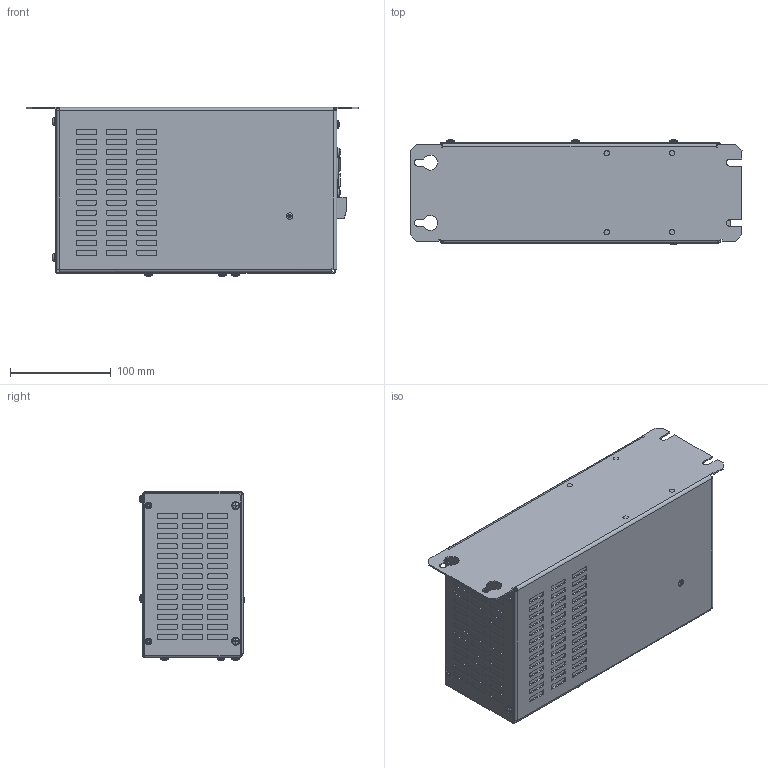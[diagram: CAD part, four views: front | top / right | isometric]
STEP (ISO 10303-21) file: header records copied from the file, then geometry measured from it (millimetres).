
FILE_DESCRIPTION(/* description */ (''),/* implementation_level */ '2;1');
FILE_NAME(/* name */ 'C:\Users\Erika.Jenzer\OneDrive - Schaffner EMV AG\CR_COs\FN5420 IP20 FRAME SIZE B.stp',/* time_stamp */ '2022-03-03T14:41:19+01:00',/* author */ ('erika.jenzer'),/* organization */ (''),/* preprocessor_version */ 'ST-DEVELOPER v18.1',/* originating_system */ 'Autodesk Inventor 2020',/* authorisation */ '');
FILE_SCHEMA (('AUTOMOTIVE_DESIGN { 1 0 10303 214 3 1 1 }'));
Products named in the file (1): FN5420 IP20 FRAME SIZE B
Bounding box: 330 x 104.47 x 168.07 mm (x, y, z)
Volume: 4174286.1 mm3; surface area: 327011.3 mm2
Topology: 5 solids, 59 shells, 2913 faces, 7708 edges, 5100 vertices
Faces by surface type: plane 1595, cylinder 918, cone 190, torus 117, bspline 64, sphere 29
Full cylindrical faces by diameter (mm): 0.024 x2, 2 x5, 2.3 x4, 2.4 x2, 2.75 x1, 3 x1, 3.1 x2, 3.2 x8, 3.3 x3, 3.4 x1, 3.5 x5, 3.621 x12, 4 x16, 4.3 x8, 4.5 x8, 4.8 x12, 5 x12, 5.3 x6, 5.4 x6, 6.5 x5, 7 x5, 7.2 x1, 7.3 x4, 8 x1, 8.5 x6, 9 x4, 10 x2
Entity records: 103712 total; most frequent: CARTESIAN_POINT 27315, DIRECTION 15471, ORIENTED_EDGE 15368, EDGE_CURVE 7684, AXIS2_PLACEMENT_3D 5477, VERTEX_POINT 5100, LINE 4517, VECTOR 4517
